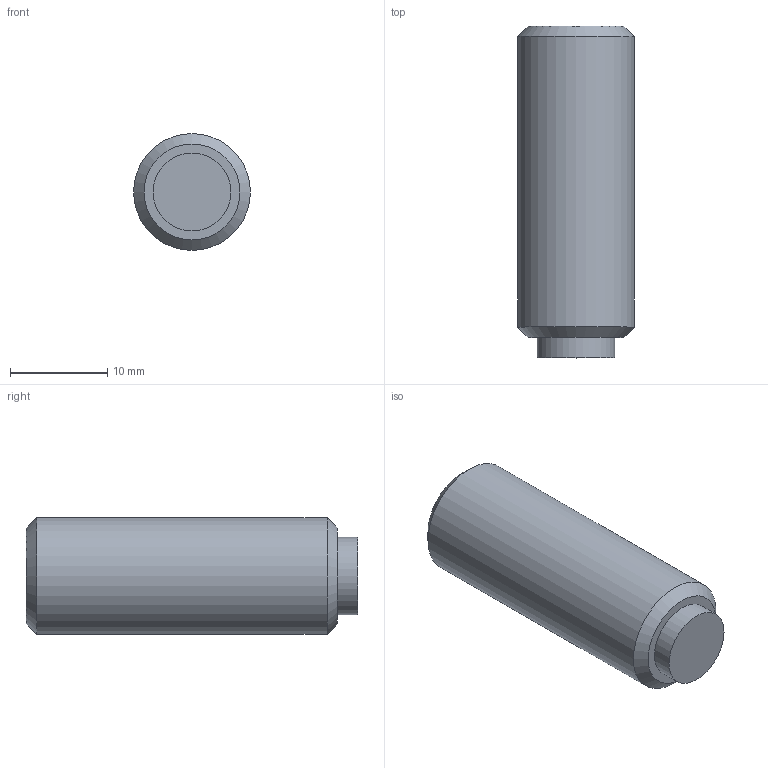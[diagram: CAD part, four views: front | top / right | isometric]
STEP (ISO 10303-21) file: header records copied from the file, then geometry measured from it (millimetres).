
FILE_DESCRIPTION( ( 'STEP AP203' ), '1' );
FILE_NAME( 'C:/Temp/Ganter_Step_05_03_2020/data/3_2/gn913_3/Grub screw GN 913.3-M12-32-KU.stp', '2020-03-13T05:35:41', ( 'License CC BY-ND 4.0' ), ( 'CADENAS' ), ' ', 'PARTsolutions', ' ' );
FILE_SCHEMA( ( 'CONFIG_CONTROL_DESIGN' ) );
Length unit declared in the file: millimetre
Products named in the file (1): _Grub screw GN 913.3-M12-32-KU
Bounding box: 12 x 34.1 x 12 mm (x, y, z)
Volume: 3434.4 mm3; surface area: 1601.2 mm2
Topology: 1 solids, 1 shells, 14 faces, 28 edges, 18 vertices
Faces by surface type: plane 10, cylinder 2, cone 2
Full cylindrical faces by diameter (mm): 8 x1, 12 x1
Entity records: 386 total; most frequent: DIRECTION 60, CARTESIAN_POINT 57, ORIENTED_EDGE 48, EDGE_CURVE 24, AXIS2_PLACEMENT_3D 21, EDGE_LOOP 20, VERTEX_POINT 18, LINE 18
